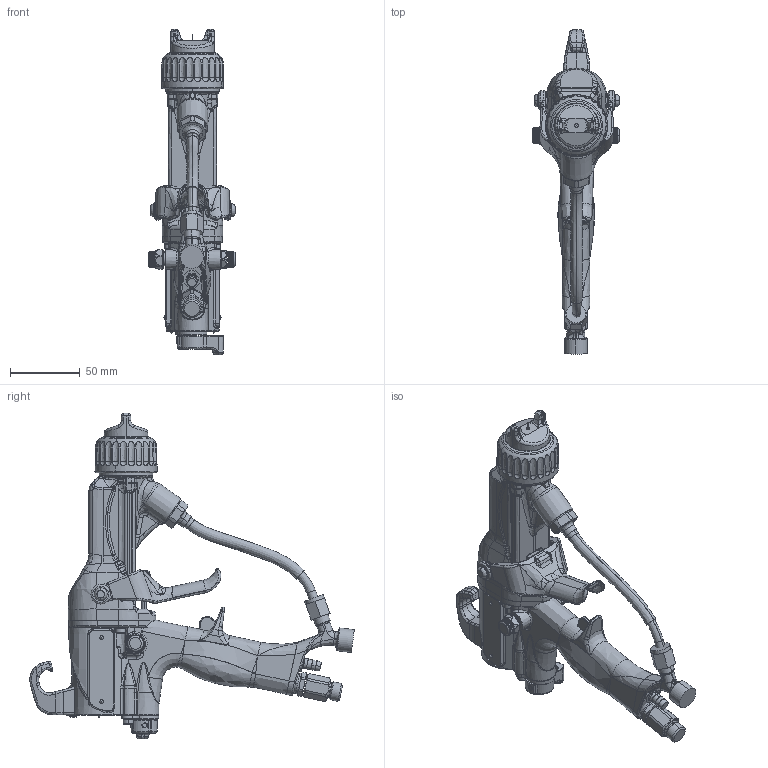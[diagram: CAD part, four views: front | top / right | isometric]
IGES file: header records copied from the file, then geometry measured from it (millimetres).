
Start section:  PTC IGES file: l60t98-en-b.igs
Global section: file name: l60t98-en-b.igs; native system: Creo Parametric by PTC Inc.; preprocessor: 2019030; author: qusrh3; organization: Unknown; date: 20200101.121131; units: inch
Bounding box: 62.61 x 233.22 x 234.14 mm (x, y, z)
Surface area: 89549.3 mm2 (no closed solid volume)
Topology: 0 solids, 0 shells, 2408 faces, 11830 edges, 11823 vertices
Faces by surface type: bspline 1317, revolution 1087, extrusion 4
